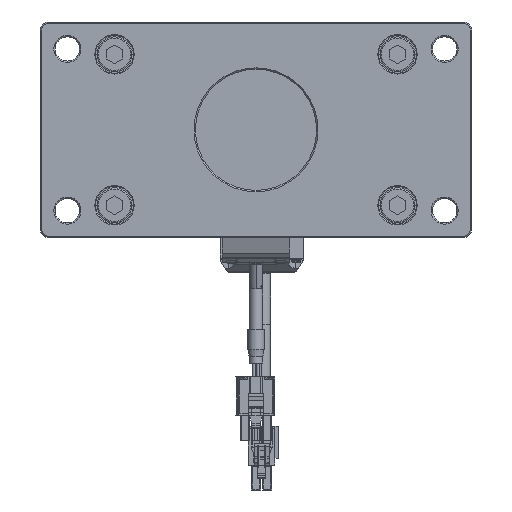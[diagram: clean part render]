
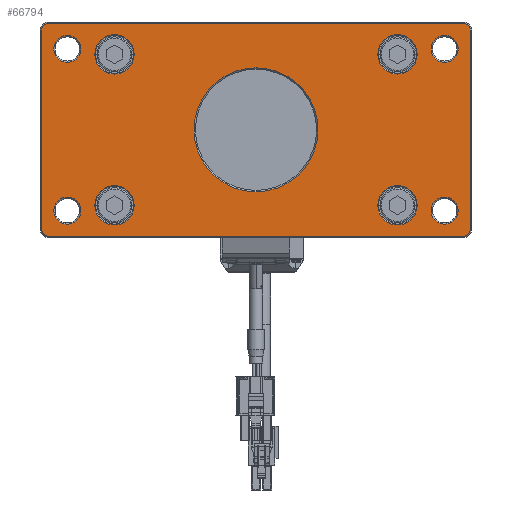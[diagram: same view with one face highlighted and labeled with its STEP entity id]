
A CAD part, front view. The second image highlights one B-rep face of the part: STEP entity #66794.
In plain terms, the highlighted planar face has unit normal (0, -1, 0) as drawn and (0, 1, 0) by its records, which use the part's own axes.
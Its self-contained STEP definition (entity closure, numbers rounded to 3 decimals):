
#65246=CARTESIAN_POINT('',(0.,7.,0.));
#65247=DIRECTION('',(0.,-1.,0.));
#65248=DIRECTION('',(1.,0.,0.));
#65249=AXIS2_PLACEMENT_3D('',#65246,#65247,#65248);
#65251=CARTESIAN_POINT('',(0.,7.,0.));
#65252=DIRECTION('',(0.,-1.,0.));
#65253=DIRECTION('',(-1.,0.,0.));
#65254=AXIS2_PLACEMENT_3D('',#65251,#65252,#65253);
#65256=CARTESIAN_POINT('',(-70.,7.,-30.));
#65257=DIRECTION('',(0.,-1.,0.));
#65258=DIRECTION('',(-1.,0.,0.));
#65259=AXIS2_PLACEMENT_3D('',#65256,#65257,#65258);
#65261=CARTESIAN_POINT('',(-70.,7.,-30.));
#65262=DIRECTION('',(0.,-1.,0.));
#65263=DIRECTION('',(1.,0.,0.));
#65264=AXIS2_PLACEMENT_3D('',#65261,#65262,#65263);
#65266=CARTESIAN_POINT('',(70.,7.,-30.));
#65267=DIRECTION('',(0.,-1.,0.));
#65268=DIRECTION('',(-1.,0.,0.));
#65269=AXIS2_PLACEMENT_3D('',#65266,#65267,#65268);
#65271=CARTESIAN_POINT('',(70.,7.,-30.));
#65272=DIRECTION('',(0.,-1.,0.));
#65273=DIRECTION('',(1.,0.,0.));
#65274=AXIS2_PLACEMENT_3D('',#65271,#65272,#65273);
#65276=CARTESIAN_POINT('',(70.,7.,30.));
#65277=DIRECTION('',(0.,-1.,0.));
#65278=DIRECTION('',(1.,0.,0.));
#65279=AXIS2_PLACEMENT_3D('',#65276,#65277,#65278);
#65281=CARTESIAN_POINT('',(70.,7.,30.));
#65282=DIRECTION('',(0.,-1.,0.));
#65283=DIRECTION('',(-1.,0.,0.));
#65284=AXIS2_PLACEMENT_3D('',#65281,#65282,#65283);
#65286=CARTESIAN_POINT('',(-70.,7.,30.));
#65287=DIRECTION('',(0.,-1.,0.));
#65288=DIRECTION('',(-1.,0.,0.));
#65289=AXIS2_PLACEMENT_3D('',#65286,#65287,#65288);
#65291=CARTESIAN_POINT('',(-70.,7.,30.));
#65292=DIRECTION('',(0.,-1.,0.));
#65293=DIRECTION('',(1.,0.,0.));
#65294=AXIS2_PLACEMENT_3D('',#65291,#65292,#65293);
#65296=CARTESIAN_POINT('',(-77.,7.,-37.));
#65297=DIRECTION('',(0.,1.,0.));
#65298=DIRECTION('',(0.,0.,-1.));
#65299=AXIS2_PLACEMENT_3D('',#65296,#65297,#65298);
#65301=DIRECTION('',(-1.,0.,0.));
#65302=VECTOR('',#65301,154.);
#65303=CARTESIAN_POINT('',(77.,7.,
-39.5));
#65304=LINE('',#65303,#65302);
#65305=CARTESIAN_POINT('',(77.,7.,-37.));
#65306=DIRECTION('',(0.,1.,0.));
#65307=DIRECTION('',(1.,0.,0.));
#65308=AXIS2_PLACEMENT_3D('',#65305,#65306,#65307);
#65310=DIRECTION('',(0.,0.,-1.));
#65311=VECTOR('',#65310,74.);
#65312=CARTESIAN_POINT('',(79.5,7.,37.));
#65313=LINE('',#65312,#65311);
#65314=CARTESIAN_POINT('',(77.,7.,37.));
#65315=DIRECTION('',(0.,1.,0.));
#65316=DIRECTION('',(0.,0.,1.));
#65317=AXIS2_PLACEMENT_3D('',#65314,#65315,#65316);
#65319=DIRECTION('',(1.,0.,0.));
#65320=VECTOR('',#65319,154.);
#65321=CARTESIAN_POINT('',(-77.,7.,
39.5));
#65322=LINE('',#65321,#65320);
#65323=CARTESIAN_POINT('',(-77.,7.,37.));
#65324=DIRECTION('',(0.,1.,0.));
#65325=DIRECTION('',(-1.,0.,0.));
#65326=AXIS2_PLACEMENT_3D('',#65323,#65324,#65325);
#65328=DIRECTION('',(0.,0.,1.));
#65329=VECTOR('',#65328,74.);
#65330=CARTESIAN_POINT('',(-79.5,7.,
-37.));
#65331=LINE('',#65330,#65329);
#65332=CARTESIAN_POINT('',(52.5,7.,28.));
#65333=DIRECTION('',(0.,-1.,0.));
#65334=DIRECTION('',(1.,0.,0.));
#65335=AXIS2_PLACEMENT_3D('',#65332,#65333,#65334);
#65337=CARTESIAN_POINT('',(52.5,7.,28.));
#65338=DIRECTION('',(0.,-1.,0.));
#65339=DIRECTION('',(-1.,0.,0.));
#65340=AXIS2_PLACEMENT_3D('',#65337,#65338,#65339);
#65342=CARTESIAN_POINT('',(-52.5,7.,28.));
#65343=DIRECTION('',(0.,-1.,0.));
#65344=DIRECTION('',(1.,0.,0.));
#65345=AXIS2_PLACEMENT_3D('',#65342,#65343,#65344);
#65347=CARTESIAN_POINT('',(-52.5,7.,28.));
#65348=DIRECTION('',(0.,-1.,0.));
#65349=DIRECTION('',(-1.,0.,0.));
#65350=AXIS2_PLACEMENT_3D('',#65347,#65348,#65349);
#65352=CARTESIAN_POINT('',(52.5,7.,-28.));
#65353=DIRECTION('',(0.,-1.,0.));
#65354=DIRECTION('',(1.,0.,0.));
#65355=AXIS2_PLACEMENT_3D('',#65352,#65353,#65354);
#65357=CARTESIAN_POINT('',(52.5,7.,-28.));
#65358=DIRECTION('',(0.,-1.,0.));
#65359=DIRECTION('',(-1.,0.,0.));
#65360=AXIS2_PLACEMENT_3D('',#65357,#65358,#65359);
#65362=CARTESIAN_POINT('',(-52.5,7.,-28.));
#65363=DIRECTION('',(0.,-1.,0.));
#65364=DIRECTION('',(1.,0.,0.));
#65365=AXIS2_PLACEMENT_3D('',#65362,#65363,#65364);
#65367=CARTESIAN_POINT('',(-52.5,7.,-28.));
#65368=DIRECTION('',(0.,-1.,0.));
#65369=DIRECTION('',(-1.,0.,0.));
#65370=AXIS2_PLACEMENT_3D('',#65367,#65368,#65369);
#66278=CARTESIAN_POINT('',(23.,7.,0.));
#66279=CARTESIAN_POINT('',(-23.,7.,0.));
#66280=VERTEX_POINT('',#66278);
#66281=VERTEX_POINT('',#66279);
#66294=CARTESIAN_POINT('',(-75.,7.,-30.));
#66295=CARTESIAN_POINT('',(-65.,7.,-30.));
#66296=VERTEX_POINT('',#66294);
#66297=VERTEX_POINT('',#66295);
#66302=CARTESIAN_POINT('',(65.,7.,-30.));
#66303=CARTESIAN_POINT('',(75.,7.,-30.));
#66304=VERTEX_POINT('',#66302);
#66305=VERTEX_POINT('',#66303);
#66310=CARTESIAN_POINT('',(75.,7.,30.));
#66311=CARTESIAN_POINT('',(65.,7.,30.));
#66312=VERTEX_POINT('',#66310);
#66313=VERTEX_POINT('',#66311);
#66318=CARTESIAN_POINT('',(-75.,7.,30.));
#66319=CARTESIAN_POINT('',(-65.,7.,30.));
#66320=VERTEX_POINT('',#66318);
#66321=VERTEX_POINT('',#66319);
#66390=CARTESIAN_POINT('',(-77.,7.,-39.5));
#66391=CARTESIAN_POINT('',(-79.5,7.,-37.));
#66392=VERTEX_POINT('',#66390);
#66393=VERTEX_POINT('',#66391);
#66398=CARTESIAN_POINT('',(-79.5,7.,37.));
#66399=VERTEX_POINT('',#66398);
#66402=CARTESIAN_POINT('',(-77.,7.,39.5));
#66403=VERTEX_POINT('',#66402);
#66406=CARTESIAN_POINT('',(77.,7.,39.5));
#66407=VERTEX_POINT('',#66406);
#66410=CARTESIAN_POINT('',(79.5,7.,37.));
#66411=VERTEX_POINT('',#66410);
#66414=CARTESIAN_POINT('',(79.5,7.,-37.));
#66415=VERTEX_POINT('',#66414);
#66418=CARTESIAN_POINT('',(77.,7.,-39.5));
#66419=VERTEX_POINT('',#66418);
#66438=CARTESIAN_POINT('',(59.8,7.,28.));
#66439=CARTESIAN_POINT('',(45.2,7.,28.));
#66440=VERTEX_POINT('',#66438);
#66441=VERTEX_POINT('',#66439);
#66462=CARTESIAN_POINT('',(-45.2,7.,28.));
#66463=CARTESIAN_POINT('',(-59.8,7.,28.));
#66464=VERTEX_POINT('',#66462);
#66465=VERTEX_POINT('',#66463);
#66478=CARTESIAN_POINT('',(59.8,7.,-28.));
#66479=CARTESIAN_POINT('',(45.2,7.,-28.));
#66480=VERTEX_POINT('',#66478);
#66481=VERTEX_POINT('',#66479);
#66486=CARTESIAN_POINT('',(-45.2,7.,-28.));
#66487=CARTESIAN_POINT('',(-59.8,7.,-28.));
#66488=VERTEX_POINT('',#66486);
#66489=VERTEX_POINT('',#66487);
#66718=CARTESIAN_POINT('',(0.,7.,0.));
#66719=DIRECTION('',(0.,1.,0.));
#66720=DIRECTION('',(1.,0.,0.));
#66721=AXIS2_PLACEMENT_3D('',#66718,#66719,#66720);
#66722=PLANE('',#66721);
#66724=ORIENTED_EDGE('',*,*,#66723,.F.);
#66726=ORIENTED_EDGE('',*,*,#66725,.F.);
#66728=ORIENTED_EDGE('',*,*,#66727,.F.);
#66730=ORIENTED_EDGE('',*,*,#66729,.F.);
#66732=ORIENTED_EDGE('',*,*,#66731,.F.);
#66734=ORIENTED_EDGE('',*,*,#66733,.F.);
#66736=ORIENTED_EDGE('',*,*,#66735,.F.);
#66738=ORIENTED_EDGE('',*,*,#66737,.F.);
#66739=EDGE_LOOP('',(#66724,#66726,#66728,#66730,#66732,#66734,#66736,#66738));
#66740=FACE_OUTER_BOUND('',#66739,.F.);
#66742=ORIENTED_EDGE('',*,*,#66741,.F.);
#66744=ORIENTED_EDGE('',*,*,#66743,.F.);
#66745=EDGE_LOOP('',(#66742,#66744));
#66746=FACE_BOUND('',#66745,.F.);
#66748=ORIENTED_EDGE('',*,*,#66747,.F.);
#66750=ORIENTED_EDGE('',*,*,#66749,.F.);
#66751=EDGE_LOOP('',(#66748,#66750));
#66752=FACE_BOUND('',#66751,.F.);
#66754=ORIENTED_EDGE('',*,*,#66753,.F.);
#66756=ORIENTED_EDGE('',*,*,#66755,.F.);
#66757=EDGE_LOOP('',(#66754,#66756));
#66758=FACE_BOUND('',#66757,.F.);
#66760=ORIENTED_EDGE('',*,*,#66759,.F.);
#66762=ORIENTED_EDGE('',*,*,#66761,.F.);
#66763=EDGE_LOOP('',(#66760,#66762));
#66764=FACE_BOUND('',#66763,.F.);
#66766=ORIENTED_EDGE('',*,*,#66765,.F.);
#66767=ORIENTED_EDGE('',*,*,#66708,.F.);
#66768=EDGE_LOOP('',(#66766,#66767));
#66769=FACE_BOUND('',#66768,.F.);
#66771=ORIENTED_EDGE('',*,*,#66770,.F.);
#66773=ORIENTED_EDGE('',*,*,#66772,.F.);
#66774=EDGE_LOOP('',(#66771,#66773));
#66775=FACE_BOUND('',#66774,.F.);
#66777=ORIENTED_EDGE('',*,*,#66776,.F.);
#66779=ORIENTED_EDGE('',*,*,#66778,.F.);
#66780=EDGE_LOOP('',(#66777,#66779));
#66781=FACE_BOUND('',#66780,.F.);
#66783=ORIENTED_EDGE('',*,*,#66782,.F.);
#66785=ORIENTED_EDGE('',*,*,#66784,.F.);
#66786=EDGE_LOOP('',(#66783,#66785));
#66787=FACE_BOUND('',#66786,.F.);
#66789=ORIENTED_EDGE('',*,*,#66788,.F.);
#66791=ORIENTED_EDGE('',*,*,#66790,.F.);
#66792=EDGE_LOOP('',(#66789,#66791));
#66793=FACE_BOUND('',#66792,.F.);
#66794=ADVANCED_FACE('',(#66740,#66746,#66752,#66758,#66764,#66769,#66775,
#66781,#66787,#66793),#66722,.T.);
#65250=CIRCLE('',#65249,23.);
#65255=CIRCLE('',#65254,23.);
#65260=CIRCLE('',#65259,5.);
#65265=CIRCLE('',#65264,5.);
#65270=CIRCLE('',#65269,5.);
#65275=CIRCLE('',#65274,5.);
#65280=CIRCLE('',#65279,5.);
#65285=CIRCLE('',#65284,5.);
#65290=CIRCLE('',#65289,5.);
#65295=CIRCLE('',#65294,5.);
#65300=CIRCLE('',#65299,2.5);
#65309=CIRCLE('',#65308,2.5);
#65318=CIRCLE('',#65317,2.5);
#65327=CIRCLE('',#65326,2.5);
#65336=CIRCLE('',#65335,7.3);
#65341=CIRCLE('',#65340,7.3);
#65346=CIRCLE('',#65345,7.3);
#65351=CIRCLE('',#65350,7.3);
#65356=CIRCLE('',#65355,7.3);
#65361=CIRCLE('',#65360,7.3);
#65366=CIRCLE('',#65365,7.3);
#65371=CIRCLE('',#65370,7.3);
#66708=EDGE_CURVE('',#66281,#66280,#65255,.T.);
#66723=EDGE_CURVE('',#66392,#66393,#65300,.T.);
#66725=EDGE_CURVE('',#66419,#66392,#65304,.T.);
#66727=EDGE_CURVE('',#66415,#66419,#65309,.T.);
#66729=EDGE_CURVE('',#66411,#66415,#65313,.T.);
#66731=EDGE_CURVE('',#66407,#66411,#65318,.T.);
#66733=EDGE_CURVE('',#66403,#66407,#65322,.T.);
#66735=EDGE_CURVE('',#66399,#66403,#65327,.T.);
#66737=EDGE_CURVE('',#66393,#66399,#65331,.T.);
#66741=EDGE_CURVE('',#66296,#66297,#65260,.T.);
#66743=EDGE_CURVE('',#66297,#66296,#65265,.T.);
#66747=EDGE_CURVE('',#66304,#66305,#65270,.T.);
#66749=EDGE_CURVE('',#66305,#66304,#65275,.T.);
#66753=EDGE_CURVE('',#66312,#66313,#65280,.T.);
#66755=EDGE_CURVE('',#66313,#66312,#65285,.T.);
#66759=EDGE_CURVE('',#66320,#66321,#65290,.T.);
#66761=EDGE_CURVE('',#66321,#66320,#65295,.T.);
#66765=EDGE_CURVE('',#66280,#66281,#65250,.T.);
#66770=EDGE_CURVE('',#66440,#66441,#65336,.T.);
#66772=EDGE_CURVE('',#66441,#66440,#65341,.T.);
#66776=EDGE_CURVE('',#66464,#66465,#65346,.T.);
#66778=EDGE_CURVE('',#66465,#66464,#65351,.T.);
#66782=EDGE_CURVE('',#66480,#66481,#65356,.T.);
#66784=EDGE_CURVE('',#66481,#66480,#65361,.T.);
#66788=EDGE_CURVE('',#66488,#66489,#65366,.T.);
#66790=EDGE_CURVE('',#66489,#66488,#65371,.T.);
